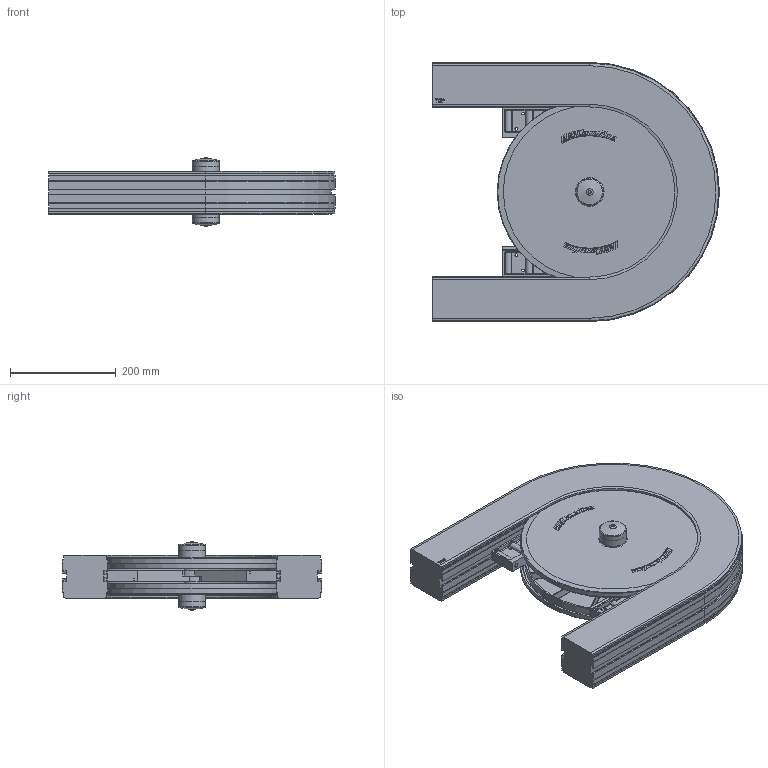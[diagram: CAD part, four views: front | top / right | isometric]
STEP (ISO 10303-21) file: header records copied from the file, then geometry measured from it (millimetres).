
FILE_DESCRIPTION((''),'2;1');
FILE_NAME('C:\Vault Klient\Projekt\Koncept konstruktion\Serie 830 Hjulkurva\830-5050.stp','2009-12-01T15:33:50',('Mathias'),(''),'Autodesk Inventor 2010','Autodesk Inventor 2010','');
FILE_SCHEMA(('CONFIG_CONTROL_DESIGN'));
Length unit declared in the file: millimetre
Products named in the file (5): 830-5050; 830-1000_03; 830-5056; 830-5057; FCWA-0476-025
Assembly tree (7 placements, depth 2):
  830-5050
    830-1000_03
    830-5056  x2
    830-5057  x2
    FCWA-0476-025  x2
Bounding box: 543 x 491 x 131.93 mm (x, y, z)
Volume: 9616688.3 mm3; surface area: 1224228.9 mm2
Topology: 7 solids, 7 shells, 1539 faces, 3850 edges, 2386 vertices
Faces by surface type: plane 831, bspline 334, cylinder 236, cone 72, torus 62, sphere 4
Full cylindrical faces by diameter (mm): 6 x16, 29.5 x2, 30 x2, 40 x4, 47.6 x2, 50.3 x2, 51.3 x2, 350 x2
Entity records: 30482 total; most frequent: CARTESIAN_POINT 10658, ORIENTED_EDGE 4136, DIRECTION 3780, EDGE_CURVE 2068, VERTEX_POINT 1326, VECTOR 1280, LINE 1280, AXIS2_PLACEMENT_3D 1250
